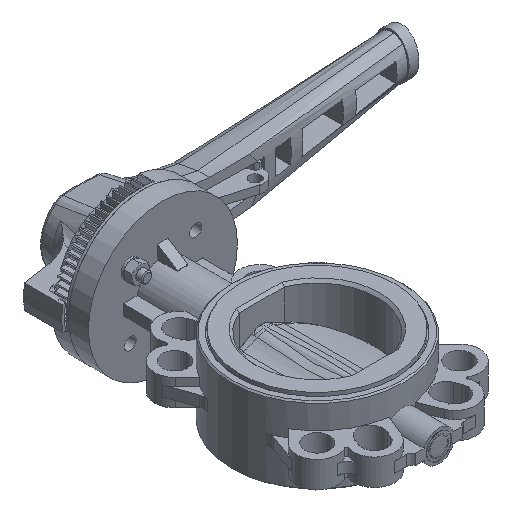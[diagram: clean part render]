
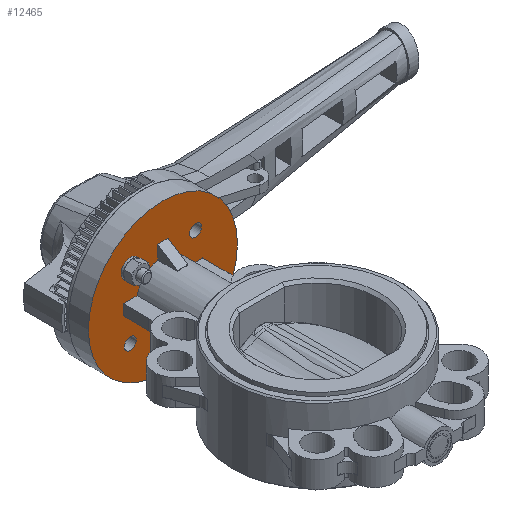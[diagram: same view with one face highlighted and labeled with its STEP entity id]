
A CAD part, isometric view. The second image highlights one B-rep face of the part: STEP entity #12465.
In plain terms, the highlighted planar face has unit normal (0, -1, 0).
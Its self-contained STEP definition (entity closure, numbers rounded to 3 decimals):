
#461=LINE('',#18116,#1309);
#465=LINE('',#18130,#1313);
#468=LINE('',#18137,#1316);
#559=LINE('',#18605,#1407);
#563=LINE('',#18613,#1411);
#565=LINE('',#18616,#1413);
#566=LINE('',#18621,#1414);
#567=LINE('',#18623,#1415);
#568=LINE('',#18624,#1416);
#569=LINE('',#18626,#1417);
#570=LINE('',#18628,#1418);
#571=LINE('',#18629,#1419);
#1309=VECTOR('',#14543,10.404);
#1313=VECTOR('',#14557,8.);
#1316=VECTOR('',#14564,10.404);
#1407=VECTOR('',#14925,10.404);
#1411=VECTOR('',#14933,8.);
#1413=VECTOR('',#14937,10.404);
#1414=VECTOR('',#14942,10.404);
#1415=VECTOR('',#14943,8.);
#1416=VECTOR('',#14944,10.404);
#1417=VECTOR('',#14945,10.404);
#1418=VECTOR('',#14946,8.);
#1419=VECTOR('',#14947,10.404);
#2523=PLANE('',#13338);
#2841=FACE_BOUND('',#3814,.T.);
#2842=FACE_BOUND('',#3815,.T.);
#2843=FACE_BOUND('',#3816,.T.);
#2844=FACE_BOUND('',#3817,.T.);
#2845=FACE_BOUND('',#3818,.T.);
#3026=FACE_OUTER_BOUND('',#3813,.T.);
#3813=EDGE_LOOP('',(#8761));
#3814=EDGE_LOOP('',(#8762,#8763,#8764,#8765,#8766,#8767,#8768,#8769,#8770,
#8771,#8772,#8773,#8774,#8775,#8776,#8777));
#3815=EDGE_LOOP('',(#8778));
#3816=EDGE_LOOP('',(#8779));
#3817=EDGE_LOOP('',(#8780));
#3818=EDGE_LOOP('',(#8781));
#4652=CIRCLE('',#13214,20.);
#4655=CIRCLE('',#13217,20.);
#4718=CIRCLE('',#13329,20.);
#4721=CIRCLE('',#13332,20.);
#4722=CIRCLE('',#13339,56.5);
#4723=CIRCLE('',#13340,4.5);
#4724=CIRCLE('',#13341,4.5);
#4725=CIRCLE('',#13342,4.5);
#4726=CIRCLE('',#13343,4.5);
#5261=VERTEX_POINT('',#18112);
#5263=VERTEX_POINT('',#18115);
#5268=VERTEX_POINT('',#18129);
#5270=VERTEX_POINT('',#18134);
#5287=VERTEX_POINT('',#18195);
#5291=VERTEX_POINT('',#18203);
#5292=VERTEX_POINT('',#18205);
#5393=VERTEX_POINT('',#18586);
#5394=VERTEX_POINT('',#18588);
#5398=VERTEX_POINT('',#18596);
#5400=VERTEX_POINT('',#18604);
#5402=VERTEX_POINT('',#18612);
#5403=VERTEX_POINT('',#18618);
#5404=VERTEX_POINT('',#18620);
#5405=VERTEX_POINT('',#18622);
#5406=VERTEX_POINT('',#18625);
#5407=VERTEX_POINT('',#18627);
#5408=VERTEX_POINT('',#18630);
#5409=VERTEX_POINT('',#18632);
#5410=VERTEX_POINT('',#18634);
#5411=VERTEX_POINT('',#18636);
#6500=EDGE_CURVE('',#5263,#5261,#461,.T.);
#6507=EDGE_CURVE('',#5268,#5263,#465,.T.);
#6511=EDGE_CURVE('',#5270,#5268,#468,.T.);
#6533=EDGE_CURVE('',#5287,#5270,#4652,.T.);
#6538=EDGE_CURVE('',#5292,#5291,#4655,.T.);
#6684=EDGE_CURVE('',#5394,#5393,#4718,.T.);
#6689=EDGE_CURVE('',#5261,#5398,#4721,.T.);
#6692=EDGE_CURVE('',#5400,#5394,#559,.T.);
#6696=EDGE_CURVE('',#5402,#5400,#563,.T.);
#6698=EDGE_CURVE('',#5398,#5402,#565,.T.);
#6699=EDGE_CURVE('',#5403,#5403,#4722,.T.);
#6700=EDGE_CURVE('',#5393,#5404,#566,.T.);
#6701=EDGE_CURVE('',#5404,#5405,#567,.T.);
#6702=EDGE_CURVE('',#5405,#5292,#568,.T.);
#6703=EDGE_CURVE('',#5291,#5406,#569,.T.);
#6704=EDGE_CURVE('',#5406,#5407,#570,.T.);
#6705=EDGE_CURVE('',#5407,#5287,#571,.T.);
#6706=EDGE_CURVE('',#5408,#5408,#4723,.T.);
#6707=EDGE_CURVE('',#5409,#5409,#4724,.T.);
#6708=EDGE_CURVE('',#5410,#5410,#4725,.T.);
#6709=EDGE_CURVE('',#5411,#5411,#4726,.T.);
#8761=ORIENTED_EDGE('',*,*,#6699,.T.);
#8762=ORIENTED_EDGE('',*,*,#6500,.T.);
#8763=ORIENTED_EDGE('',*,*,#6689,.T.);
#8764=ORIENTED_EDGE('',*,*,#6698,.T.);
#8765=ORIENTED_EDGE('',*,*,#6696,.T.);
#8766=ORIENTED_EDGE('',*,*,#6692,.T.);
#8767=ORIENTED_EDGE('',*,*,#6684,.T.);
#8768=ORIENTED_EDGE('',*,*,#6700,.T.);
#8769=ORIENTED_EDGE('',*,*,#6701,.T.);
#8770=ORIENTED_EDGE('',*,*,#6702,.T.);
#8771=ORIENTED_EDGE('',*,*,#6538,.T.);
#8772=ORIENTED_EDGE('',*,*,#6703,.T.);
#8773=ORIENTED_EDGE('',*,*,#6704,.T.);
#8774=ORIENTED_EDGE('',*,*,#6705,.T.);
#8775=ORIENTED_EDGE('',*,*,#6533,.T.);
#8776=ORIENTED_EDGE('',*,*,#6511,.T.);
#8777=ORIENTED_EDGE('',*,*,#6507,.T.);
#8778=ORIENTED_EDGE('',*,*,#6706,.T.);
#8779=ORIENTED_EDGE('',*,*,#6707,.T.);
#8780=ORIENTED_EDGE('',*,*,#6708,.T.);
#8781=ORIENTED_EDGE('',*,*,#6709,.T.);
#12465=ADVANCED_FACE('',(#3026,#2841,#2842,#2843,#2844,#2845),#2523,.F.);
#13214=AXIS2_PLACEMENT_3D('',#18196,#14604,#14605);
#13217=AXIS2_PLACEMENT_3D('',#18206,#14612,#14613);
#13329=AXIS2_PLACEMENT_3D('',#18589,#14909,#14910);
#13332=AXIS2_PLACEMENT_3D('',#18598,#14917,#14918);
#13338=AXIS2_PLACEMENT_3D('',#18617,#14938,#14939);
#13339=AXIS2_PLACEMENT_3D('',#18619,#14940,#14941);
#13340=AXIS2_PLACEMENT_3D('',#18631,#14948,#14949);
#13341=AXIS2_PLACEMENT_3D('',#18633,#14950,#14951);
#13342=AXIS2_PLACEMENT_3D('',#18635,#14952,#14953);
#13343=AXIS2_PLACEMENT_3D('',#18637,#14954,#14955);
#14543=DIRECTION('',(-1.,0.,0.));
#14557=DIRECTION('',(0.,0.,-1.));
#14564=DIRECTION('',(1.,0.,0.));
#14604=DIRECTION('center_axis',(0.,1.,0.));
#14605=DIRECTION('ref_axis',(1.,0.,0.));
#14612=DIRECTION('center_axis',(0.,1.,0.));
#14613=DIRECTION('ref_axis',(1.,0.,0.));
#14909=DIRECTION('center_axis',(0.,1.,0.));
#14910=DIRECTION('ref_axis',(1.,0.,0.));
#14917=DIRECTION('center_axis',(0.,1.,0.));
#14918=DIRECTION('ref_axis',(1.,0.,0.));
#14925=DIRECTION('',(0.,0.,1.));
#14933=DIRECTION('',(-1.,0.,0.));
#14937=DIRECTION('',(0.,0.,-1.));
#14938=DIRECTION('center_axis',(0.,1.,0.));
#14939=DIRECTION('ref_axis',(0.,0.,1.));
#14940=DIRECTION('center_axis',(0.,-1.,0.));
#14941=DIRECTION('ref_axis',(1.,0.,0.));
#14942=DIRECTION('',(-1.,0.,0.));
#14943=DIRECTION('',(0.,0.,1.));
#14944=DIRECTION('',(1.,0.,0.));
#14945=DIRECTION('',(0.,0.,1.));
#14946=DIRECTION('',(1.,0.,0.));
#14947=DIRECTION('',(0.,0.,-1.));
#14948=DIRECTION('center_axis',(0.,1.,0.));
#14949=DIRECTION('ref_axis',(1.,0.,0.));
#14950=DIRECTION('center_axis',(0.,1.,0.));
#14951=DIRECTION('ref_axis',(1.,0.,0.));
#14952=DIRECTION('center_axis',(0.,1.,0.));
#14953=DIRECTION('ref_axis',(1.,0.,0.));
#14954=DIRECTION('center_axis',(0.,1.,0.));
#14955=DIRECTION('ref_axis',(1.,0.,0.));
#18112=CARTESIAN_POINT('',(19.596,117.,-4.));
#18115=CARTESIAN_POINT('',(30.,117.,-4.));
#18116=CARTESIAN_POINT('',(9.08,117.,-4.));
#18129=CARTESIAN_POINT('',(30.,117.,4.));
#18130=CARTESIAN_POINT('',(30.,117.,0.));
#18134=CARTESIAN_POINT('',(19.596,117.,4.));
#18137=CARTESIAN_POINT('',(9.08,117.,4.));
#18195=CARTESIAN_POINT('',(4.,117.,19.596));
#18196=CARTESIAN_POINT('Origin',(0.,117.,0.));
#18203=CARTESIAN_POINT('',(-4.,117.,19.596));
#18205=CARTESIAN_POINT('',(-19.596,117.,4.));
#18206=CARTESIAN_POINT('Origin',(0.,117.,0.));
#18586=CARTESIAN_POINT('',(-19.596,117.,-4.));
#18588=CARTESIAN_POINT('',(-4.,117.,-19.596));
#18589=CARTESIAN_POINT('Origin',(0.,117.,0.));
#18596=CARTESIAN_POINT('',(4.,117.,-19.596));
#18598=CARTESIAN_POINT('Origin',(0.,117.,0.));
#18604=CARTESIAN_POINT('',(-4.,117.,-30.));
#18605=CARTESIAN_POINT('',(-4.,117.,-6.628));
#18612=CARTESIAN_POINT('',(4.,117.,-30.));
#18613=CARTESIAN_POINT('',(0.,117.,-30.));
#18616=CARTESIAN_POINT('',(4.,117.,-6.628));
#18617=CARTESIAN_POINT('Origin',(0.,117.,0.));
#18618=CARTESIAN_POINT('',(-56.5,117.,0.));
#18619=CARTESIAN_POINT('Origin',(0.,117.,0.));
#18620=CARTESIAN_POINT('',(-30.,117.,-4.));
#18621=CARTESIAN_POINT('',(-9.08,117.,-4.));
#18622=CARTESIAN_POINT('',(-30.,117.,4.));
#18623=CARTESIAN_POINT('',(-30.,117.,0.));
#18624=CARTESIAN_POINT('',(-9.08,117.,4.));
#18625=CARTESIAN_POINT('',(-4.,117.,30.));
#18626=CARTESIAN_POINT('',(-4.,117.,6.628));
#18627=CARTESIAN_POINT('',(4.,117.,30.));
#18628=CARTESIAN_POINT('',(0.,117.,30.));
#18629=CARTESIAN_POINT('',(4.,117.,6.628));
#18630=CARTESIAN_POINT('',(-29.249,117.,-24.749));
#18631=CARTESIAN_POINT('Origin',(-24.749,117.,-24.749));
#18632=CARTESIAN_POINT('',(-29.249,117.,24.749));
#18633=CARTESIAN_POINT('Origin',(-24.749,117.,24.749));
#18634=CARTESIAN_POINT('',(20.249,117.,-24.749));
#18635=CARTESIAN_POINT('Origin',(24.749,117.,-24.749));
#18636=CARTESIAN_POINT('',(20.249,117.,24.749));
#18637=CARTESIAN_POINT('Origin',(24.749,117.,24.749));
